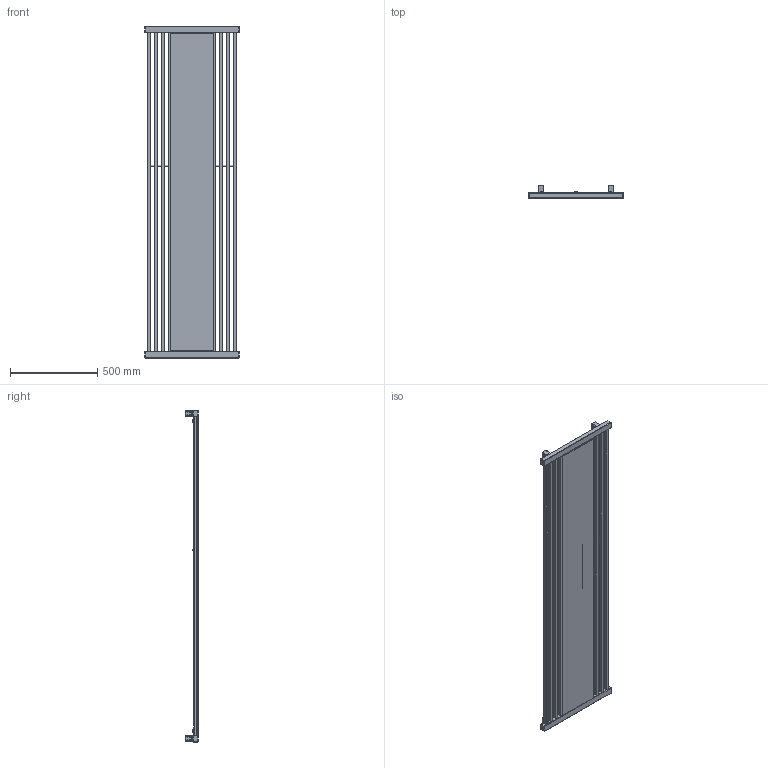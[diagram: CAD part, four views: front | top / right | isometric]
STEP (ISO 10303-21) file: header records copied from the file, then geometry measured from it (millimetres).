
FILE_DESCRIPTION((''),'2;1');
FILE_NAME('Z:\R\G\P\RGPH04 - Grzejnik Intra\Work\Inventor\Marketing\STEP\IN 19-54-ZX.stp','2012-07-25T14:53:38',('PioRo'),(''),'Autodesk Inventor 2012','Autodesk Inventor 2012','');
FILE_SCHEMA(('CONFIG_CONTROL_DESIGN'));
Length unit declared in the file: millimetre
Products named in the file (1): Część3
Bounding box: 540 x 74 x 1900 mm (x, y, z)
Volume: 11143432.3 mm3; surface area: 2910191.8 mm2
Topology: 10 solids, 36 shells, 748 faces, 1777 edges, 1120 vertices
Faces by surface type: plane 366, cylinder 264, bspline 72, cone 34, torus 12
Full cylindrical faces by diameter (mm): 4.134 x4, 5 x1, 6.912 x2, 8 x4, 9.5 x2, 10 x4, 11 x4, 11.1 x2, 12 x10, 13 x2, 18.631 x3
Entity records: 24703 total; most frequent: CARTESIAN_POINT 7085, DIRECTION 3436, ORIENTED_EDGE 3372, EDGE_CURVE 1686, AXIS2_PLACEMENT_3D 1241, VERTEX_POINT 1102, VECTOR 954, LINE 954
